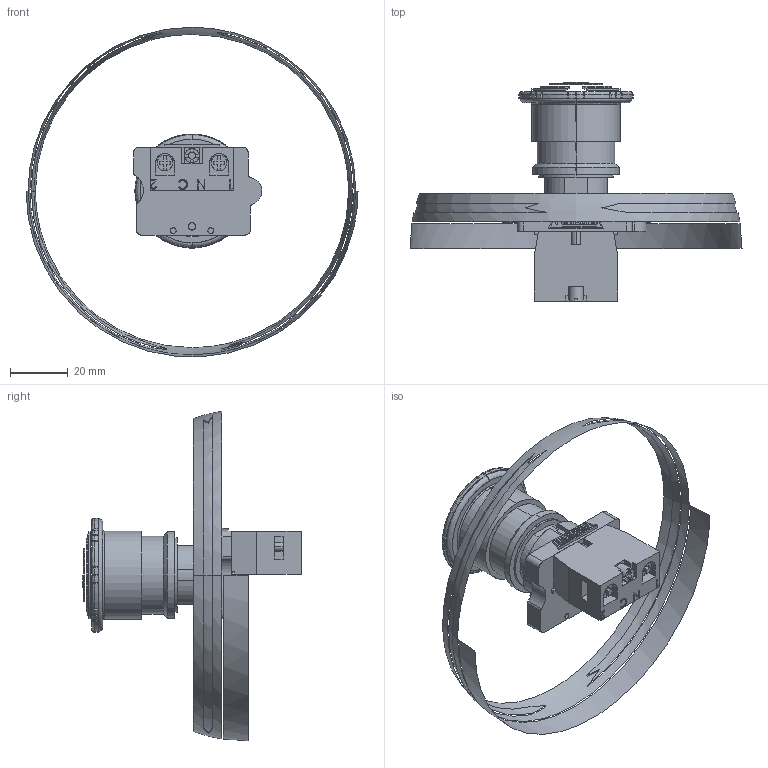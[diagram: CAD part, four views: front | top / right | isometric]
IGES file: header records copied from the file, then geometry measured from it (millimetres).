
Start section: SolidWorks IGES file using analytic representation for surfaces
Global section: file name: D:\X - Arquivos\PROEX\Empresas\P11 - METALTEX\01 - Produtos\IGES\Primeira remessa\P20AKR-R-1B.IGS; native system: SolidWorks 2012; preprocessor: SolidWorks 2012; author: Usuario; date: 180117.114418; units: millimetre
Bounding box: 114.95 x 75.85 x 114.11 mm (x, y, z)
Surface area: 17918.3 mm2 (no closed solid volume)
Topology: 0 solids, 0 shells, 458 faces, 5045 edges, 5013 vertices
Faces by surface type: bspline 309, revolution 149
